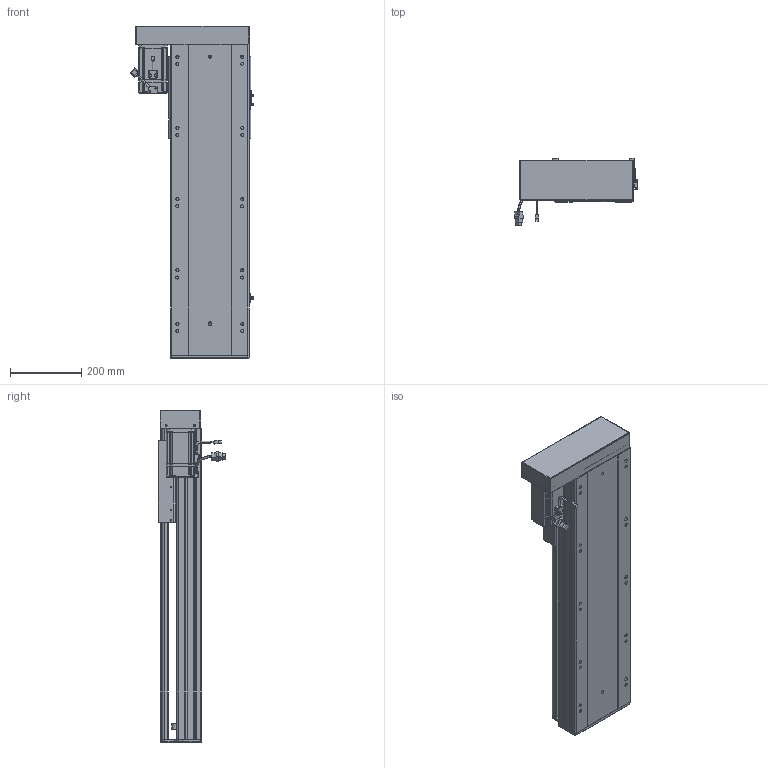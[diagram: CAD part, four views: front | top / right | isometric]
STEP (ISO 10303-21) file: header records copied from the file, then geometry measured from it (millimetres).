
FILE_DESCRIPTION (( 'STEP AP203' ), '1' );
FILE_NAME ('RY220-L2525-300-LK.SLDASM_550.step', '2022-07-04T01:46:34', ( '' ), ( '' ), 'SwSTEP 2.0', 'SolidWorks 2016', '' );
FILE_SCHEMA (( 'CONFIG_CONTROL_DESIGN' ));
Length unit declared in the file: millimetre
Products named in the file (12): RY220-L2525-300-LK.SLDASM_550; 滅袉蝶18-10; RY220半封闭25-32螺母铝滑块; 怢湛750W_ECMA-CX0807ES; RY220-300-蛌殏奻裔啣_550; RY220蛌殏菁釱-300_550; RY220酘衵殏萇儂欶; 覜茼ん672; RY220左右折电机安装板; RY220-俋离672覜茼んえ; RY220綴裔啣; 滅袉蝶18-15
Assembly tree (15 placements, depth 2):
  RY220-L2525-300-LK.SLDASM_550
    RY220蛌殏菁釱-300_550
    RY220-300-蛌殏奻裔啣_550
    怢湛750W_ECMA-CX0807ES
    滅袉蝶18-10  x2
    RY220-俋离672覜茼んえ
    覜茼ん672  x3
    RY220綴裔啣
    RY220半封闭25-32螺母铝滑块
    滅袉蝶18-15  x2
    RY220左右折电机安装板
    RY220酘衵殏萇儂欶
Bounding box: 347.44 x 189.27 x 932 mm (x, y, z)
Volume: 8649594.8 mm3; surface area: 2427476.2 mm2
Topology: 16 solids, 16 shells, 2047 faces, 5644 edges, 3591 vertices
Faces by surface type: cylinder 899, plane 896, cone 182, bspline 44, sphere 16, torus 10
Entity records: 67565 total; most frequent: CARTESIAN_POINT 19773, ORIENTED_EDGE 9952, DIRECTION 9252, EDGE_CURVE 4976, VERTEX_POINT 3247, AXIS2_PLACEMENT_3D 3217, VECTOR 2818, LINE 2818
